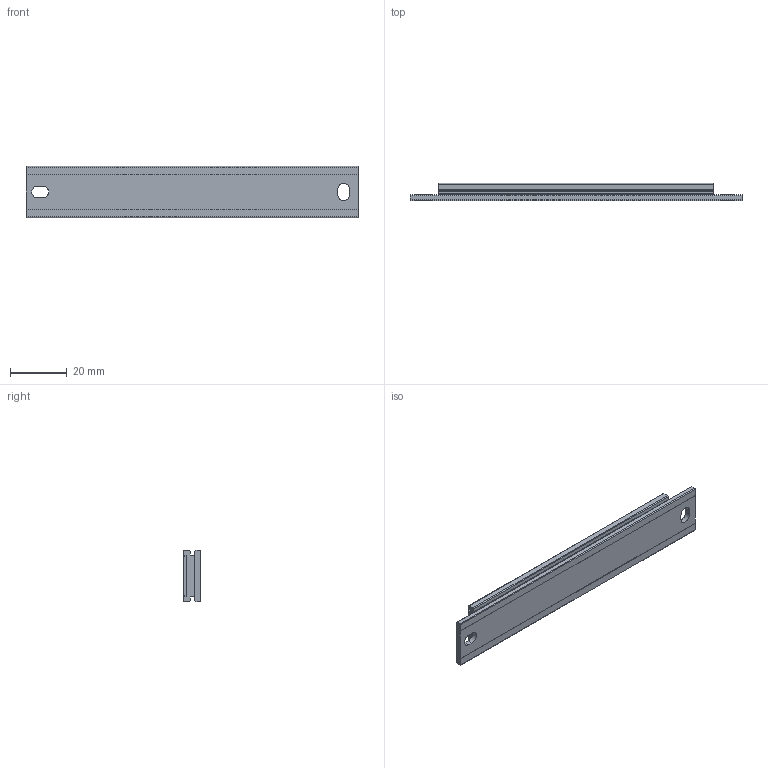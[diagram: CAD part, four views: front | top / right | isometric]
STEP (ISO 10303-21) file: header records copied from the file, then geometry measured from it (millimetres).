
FILE_DESCRIPTION (( 'STEP AP214' ), '1' );
FILE_NAME ('SAScale_exposed.ScaleLneght117.STEP', '2026-03-10T09:08:07', ( '' ), ( '' ), 'SwSTEP 2.0', 'SolidWorks 2024', '' );
FILE_SCHEMA (( 'AUTOMOTIVE_DESIGN' ));
Length unit declared in the file: millimetre
Products named in the file (1): SAScale_exposed.ScaleLneght117
Bounding box: 117 x 6 x 18 mm (x, y, z)
Volume: 10319.5 mm3; surface area: 9346.3 mm2
Topology: 2 solids, 2 shells, 52 faces, 141 edges, 94 vertices
Faces by surface type: plane 37, cylinder 15
Entity records: 2247 total; most frequent: CARTESIAN_POINT 288, ORIENTED_EDGE 282, DIRECTION 277, EDGE_CURVE 141, LINE 111, VECTOR 111, VERTEX_POINT 94, AXIS2_PLACEMENT_3D 83
